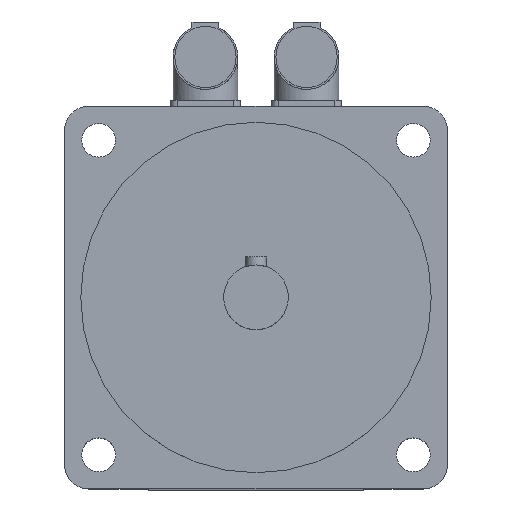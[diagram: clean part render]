
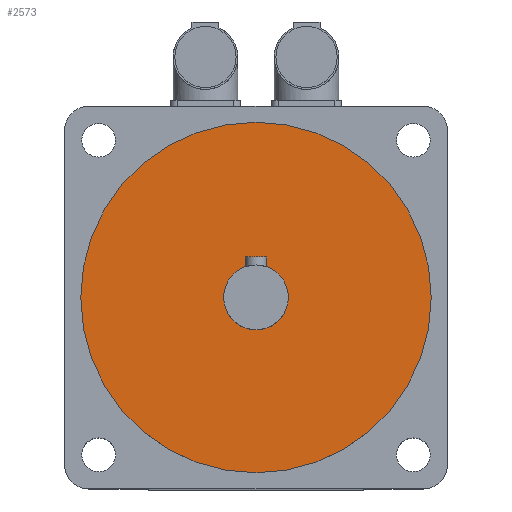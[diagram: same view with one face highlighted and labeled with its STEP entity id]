
A CAD part, top view. The second image highlights one B-rep face of the part: STEP entity #2573.
In plain terms, the highlighted planar face has unit normal (0, 0, 1).
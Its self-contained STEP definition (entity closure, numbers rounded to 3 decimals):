
#40=FACE_BOUND('',#443,.T.);
#68=CIRCLE('',#2730,12.);
#69=CIRCLE('',#2733,65.);
#285=FACE_OUTER_BOUND('',#442,.T.);
#442=EDGE_LOOP('',(#1750));
#443=EDGE_LOOP('',(#1751));
#1090=VERTEX_POINT('',#3908);
#1091=VERTEX_POINT('',#3912);
#1348=EDGE_CURVE('',#1090,#1090,#68,.T.);
#1349=EDGE_CURVE('',#1091,#1091,#69,.T.);
#1750=ORIENTED_EDGE('',*,*,#1349,.T.);
#1751=ORIENTED_EDGE('',*,*,#1348,.T.);
#2497=PLANE('',#2735);
#2573=ADVANCED_FACE('',(#285,#40),#2497,.F.);
#2730=AXIS2_PLACEMENT_3D('',#3909,#3045,#3046);
#2733=AXIS2_PLACEMENT_3D('',#3913,#3051,#3052);
#2735=AXIS2_PLACEMENT_3D('',#3916,#3055,#3056);
#3045=DIRECTION('center_axis',(0.,0.,
-1.));
#3046=DIRECTION('ref_axis',(-1.,0.,0.));
#3051=DIRECTION('center_axis',(0.,0.,
1.));
#3052=DIRECTION('ref_axis',(-1.,0.,0.));
#3055=DIRECTION('center_axis',(0.,0.,
-1.));
#3056=DIRECTION('ref_axis',(-1.,0.,0.));
#3908=CARTESIAN_POINT('',(12.,0.,201.5));
#3909=CARTESIAN_POINT('Origin',(0.,0.,
201.5));
#3912=CARTESIAN_POINT('',(65.,0.,201.5));
#3913=CARTESIAN_POINT('Origin',(0.,0.,
201.5));
#3916=CARTESIAN_POINT('Origin',(0.,0.,
201.5));
